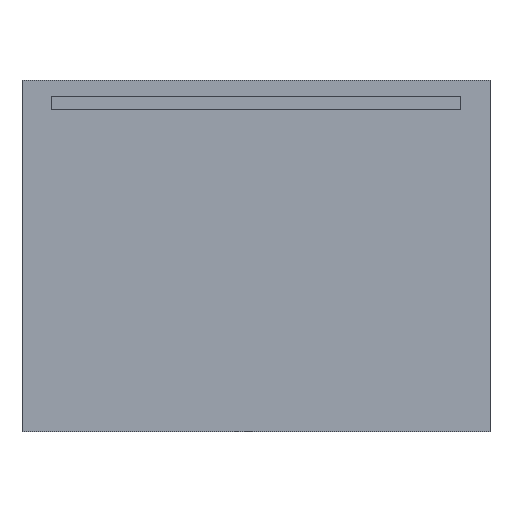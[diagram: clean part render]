
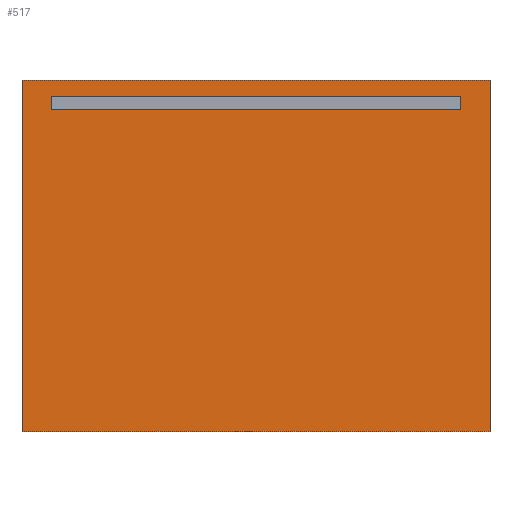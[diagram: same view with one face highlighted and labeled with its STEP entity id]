
A CAD part, front view. The second image highlights one B-rep face of the part: STEP entity #517.
In plain terms, the highlighted planar face has unit normal (0, -1, 0).
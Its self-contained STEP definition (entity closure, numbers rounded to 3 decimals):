
#47=FACE_BOUND('',#92,.T.);
#62=FACE_OUTER_BOUND('',#91,.T.);
#91=EDGE_LOOP('',(#359,#360,#361,#362));
#92=EDGE_LOOP('',(#363,#364,#365,#366));
#115=LINE('',#766,#159);
#119=LINE('',#774,#163);
#122=LINE('',#780,#166);
#125=LINE('',#785,#169);
#127=LINE('',#791,#171);
#131=LINE('',#799,#175);
#134=LINE('',#805,#178);
#137=LINE('',#810,#181);
#159=VECTOR('',#614,10.);
#163=VECTOR('',#620,10.);
#166=VECTOR('',#625,10.);
#169=VECTOR('',#630,10.);
#171=VECTOR('',#636,10.);
#175=VECTOR('',#642,10.);
#178=VECTOR('',#647,10.);
#181=VECTOR('',#652,10.);
#203=VERTEX_POINT('',#764);
#204=VERTEX_POINT('',#765);
#207=VERTEX_POINT('',#773);
#209=VERTEX_POINT('',#779);
#211=VERTEX_POINT('',#789);
#212=VERTEX_POINT('',#790);
#215=VERTEX_POINT('',#798);
#217=VERTEX_POINT('',#804);
#251=EDGE_CURVE('',#203,#204,#115,.T.);
#255=EDGE_CURVE('',#207,#203,#119,.T.);
#258=EDGE_CURVE('',#209,#207,#122,.T.);
#261=EDGE_CURVE('',#204,#209,#125,.T.);
#263=EDGE_CURVE('',#211,#212,#127,.T.);
#267=EDGE_CURVE('',#215,#211,#131,.T.);
#270=EDGE_CURVE('',#217,#215,#134,.T.);
#273=EDGE_CURVE('',#212,#217,#137,.T.);
#359=ORIENTED_EDGE('',*,*,#273,.F.);
#360=ORIENTED_EDGE('',*,*,#263,.F.);
#361=ORIENTED_EDGE('',*,*,#267,.F.);
#362=ORIENTED_EDGE('',*,*,#270,.F.);
#363=ORIENTED_EDGE('',*,*,#251,.T.);
#364=ORIENTED_EDGE('',*,*,#261,.T.);
#365=ORIENTED_EDGE('',*,*,#258,.T.);
#366=ORIENTED_EDGE('',*,*,#255,.T.);
#465=PLANE('',#567);
#517=ADVANCED_FACE('',(#62,#47),#465,.F.);
#567=AXIS2_PLACEMENT_3D('',#813,#656,#657);
#614=DIRECTION('',(0.,0.,-1.));
#620=DIRECTION('',(1.,0.,0.));
#625=DIRECTION('',(0.,0.,1.));
#630=DIRECTION('',(-1.,0.,0.));
#636=DIRECTION('',(0.,0.,1.));
#642=DIRECTION('',(-1.,0.,0.));
#647=DIRECTION('',(0.,0.,-1.));
#652=DIRECTION('',(1.,0.,0.));
#656=DIRECTION('center_axis',(0.,1.,0.));
#657=DIRECTION('ref_axis',(0.,0.,1.));
#764=CARTESIAN_POINT('',(525.,-26.,860.));
#765=CARTESIAN_POINT('',(525.,-26.,825.));
#766=CARTESIAN_POINT('',(525.,-26.,655.));
#773=CARTESIAN_POINT('',(-525.,-26.,860.));
#774=CARTESIAN_POINT('',(-262.5,-26.,860.));
#779=CARTESIAN_POINT('',(-525.,-26.,825.));
#780=CARTESIAN_POINT('',(-525.,-26.,637.5));
#785=CARTESIAN_POINT('',(262.5,-26.,825.));
#789=CARTESIAN_POINT('',(-600.,-26.,0.));
#790=CARTESIAN_POINT('',(-600.,-26.,900.));
#791=CARTESIAN_POINT('',(-600.,-26.,0.));
#798=CARTESIAN_POINT('',(600.,-26.,0.));
#799=CARTESIAN_POINT('',(600.,-26.,0.));
#804=CARTESIAN_POINT('',(600.,-26.,900.));
#805=CARTESIAN_POINT('',(600.,-26.,900.));
#810=CARTESIAN_POINT('',(-600.,-26.,900.));
#813=CARTESIAN_POINT('Origin',(0.,-26.,450.));
